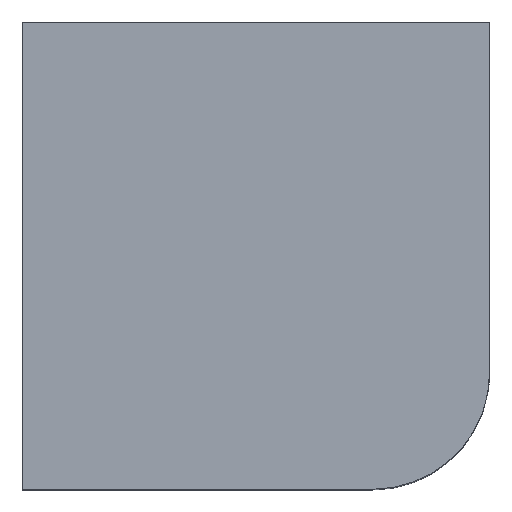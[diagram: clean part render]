
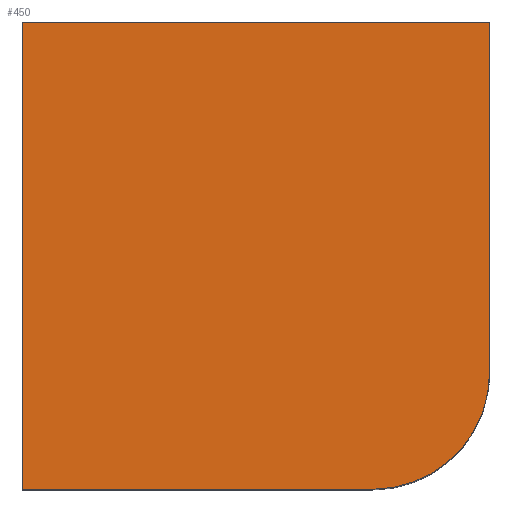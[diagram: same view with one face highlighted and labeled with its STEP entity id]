
A CAD part, top view. The second image highlights one B-rep face of the part: STEP entity #450.
In plain terms, the highlighted planar face has unit normal (0, 0, 1).
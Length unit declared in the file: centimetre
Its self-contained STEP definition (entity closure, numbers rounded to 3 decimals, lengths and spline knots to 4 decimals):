
#22 = CARTESIAN_POINT ( 'NONE',  ( 0., 0., 1000. ) ) ;
#51 = VERTEX_POINT ( 'NONE', #570 ) ;
#52 = LINE ( 'NONE', #283, #969 ) ;
#74 = DIRECTION ( 'NONE',  ( -1., 0., 0. ) ) ;
#75 = EDGE_CURVE ( 'NONE', #861, #960, #52, .T. ) ;
#121 = VECTOR ( 'NONE', #246, 100. ) ;
#135 = CARTESIAN_POINT ( 'NONE',  ( 0., 0., 1000. ) ) ;
#141 = VERTEX_POINT ( 'NONE', #540 ) ;
#215 = ORIENTED_EDGE ( 'NONE', *, *, #571, .T. ) ;
#246 = DIRECTION ( 'NONE',  ( 1., 0., 0. ) ) ;
#251 = EDGE_CURVE ( 'NONE', #423, #51, #555, .T. ) ;
#271 = DIRECTION ( 'NONE',  ( 0., 0., 1. ) ) ;
#276 = EDGE_CURVE ( 'NONE', #141, #423, #922, .T. ) ;
#277 = AXIS2_PLACEMENT_3D ( 'NONE', #583, #271, #588 ) ;
#283 = CARTESIAN_POINT ( 'NONE',  ( 0., 1000., 1000. ) ) ;
#293 = DIRECTION ( 'NONE',  ( 0., 0., 1. ) ) ;
#363 = CARTESIAN_POINT ( 'NONE',  ( 0., 1000., 1000. ) ) ;
#410 = ORIENTED_EDGE ( 'NONE', *, *, #251, .T. ) ;
#423 = VERTEX_POINT ( 'NONE', #645 ) ;
#450 = ADVANCED_FACE ( 'NONE', ( #514 ), #838, .T. ) ;
#470 = AXIS2_PLACEMENT_3D ( 'NONE', #22, #293, #763 ) ;
#501 = VECTOR ( 'NONE', #74, 100. ) ;
#514 = FACE_OUTER_BOUND ( 'NONE', #758, .T. ) ;
#515 = VECTOR ( 'NONE', #887, 100. ) ;
#540 = CARTESIAN_POINT ( 'NONE',  ( 750.3639, 0., 1000. ) ) ;
#555 = LINE ( 'NONE', #725, #515 ) ;
#570 = CARTESIAN_POINT ( 'NONE',  ( 1000., 1000., 1000. ) ) ;
#571 = EDGE_CURVE ( 'NONE', #960, #141, #671, .T. ) ;
#583 = CARTESIAN_POINT ( 'NONE',  ( 750.3639, 249.6361, 1000. ) ) ;
#588 = DIRECTION ( 'NONE',  ( 1., 0., 0. ) ) ;
#645 = CARTESIAN_POINT ( 'NONE',  ( 1000., 249.6361, 1000. ) ) ;
#661 = CARTESIAN_POINT ( 'NONE',  ( 0., 0., 1000. ) ) ;
#671 = LINE ( 'NONE', #135, #121 ) ;
#694 = ORIENTED_EDGE ( 'NONE', *, *, #276, .T. ) ;
#712 = CARTESIAN_POINT ( 'NONE',  ( 0., 1000., 1000. ) ) ;
#718 = ORIENTED_EDGE ( 'NONE', *, *, #75, .T. ) ;
#725 = CARTESIAN_POINT ( 'NONE',  ( 1000., 1000., 1000. ) ) ;
#758 = EDGE_LOOP ( 'NONE', ( #215, #694, #410, #867, #718 ) ) ;
#763 = DIRECTION ( 'NONE',  ( 1., 0., 0. ) ) ;
#838 = PLANE ( 'NONE',  #470 ) ;
#861 = VERTEX_POINT ( 'NONE', #363 ) ;
#867 = ORIENTED_EDGE ( 'NONE', *, *, #1006, .T. ) ;
#887 = DIRECTION ( 'NONE',  ( 0., 1., 0. ) ) ;
#922 = CIRCLE ( 'NONE', #277, 249.6361 ) ;
#938 = DIRECTION ( 'NONE',  ( 0., -1., 0. ) ) ;
#955 = LINE ( 'NONE', #712, #501 ) ;
#960 = VERTEX_POINT ( 'NONE', #661 ) ;
#969 = VECTOR ( 'NONE', #938, 100. ) ;
#1006 = EDGE_CURVE ( 'NONE', #51, #861, #955, .T. ) ;
